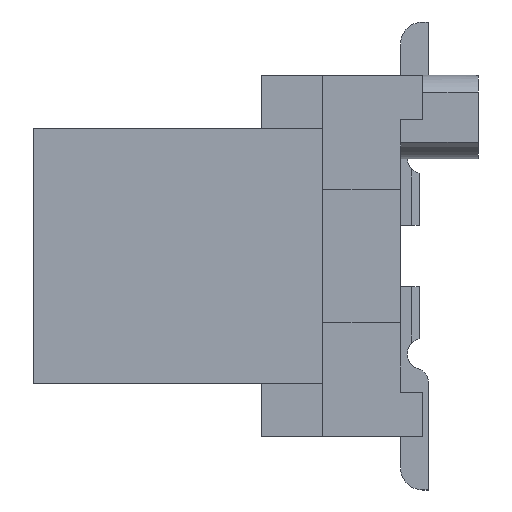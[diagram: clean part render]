
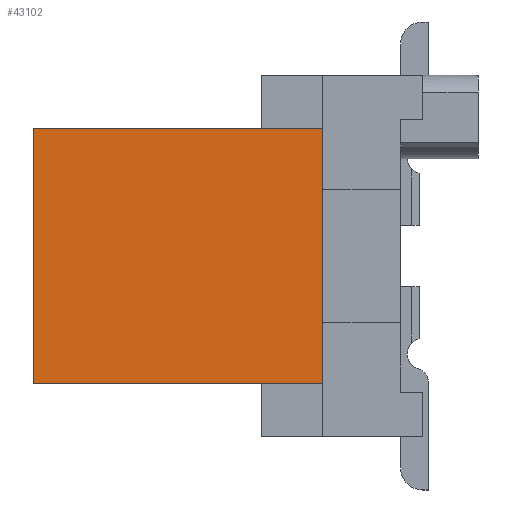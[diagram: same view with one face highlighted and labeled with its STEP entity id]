
A CAD part, left-side view. The second image highlights one B-rep face of the part: STEP entity #43102.
In plain terms, the highlighted planar face has unit normal (-1, 0, 0).
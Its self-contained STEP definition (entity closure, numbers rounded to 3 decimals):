
#2922 = DIRECTION ( 'NONE',  ( -1., 0., 0. ) ) ;
#4295 = VERTEX_POINT ( 'NONE', #21627 ) ;
#5418 = ORIENTED_EDGE ( 'NONE', *, *, #6953, .F. ) ;
#6225 = ORIENTED_EDGE ( 'NONE', *, *, #54041, .T. ) ;
#6953 = EDGE_CURVE ( 'NONE', #56778, #30834, #28924, .T. ) ;
#7497 = CARTESIAN_POINT ( 'NONE',  ( 1.944, -0.529, -2.775 ) ) ;
#9437 = VECTOR ( 'NONE', #49473, 1000. ) ;
#10657 = EDGE_CURVE ( 'NONE', #53269, #4295, #25422, .T. ) ;
#12766 = DIRECTION ( 'NONE',  ( 0., 0., 1. ) ) ;
#14448 = LINE ( 'NONE', #49749, #9437 ) ;
#15999 = CARTESIAN_POINT ( 'NONE',  ( 1.944, -1.079, -2.775 ) ) ;
#16114 = DIRECTION ( 'NONE',  ( 0., 0., 1. ) ) ;
#16687 = PLANE ( 'NONE',  #34619 ) ;
#17676 = VECTOR ( 'NONE', #20030, 1000. ) ;
#19606 = CARTESIAN_POINT ( 'NONE',  ( 1.944, -1.079, -2.775 ) ) ;
#20030 = DIRECTION ( 'NONE',  ( 0., 0., -1. ) ) ;
#21627 = CARTESIAN_POINT ( 'NONE',  ( 1.944, 1.521, -0.475 ) ) ;
#22575 = VECTOR ( 'NONE', #12766, 1000. ) ;
#24594 = CARTESIAN_POINT ( 'NONE',  ( 1.944, -1.079, -0.475 ) ) ;
#25422 = LINE ( 'NONE', #43497, #22575 ) ;
#25574 = VECTOR ( 'NONE', #31575, 1000. ) ;
#28924 = LINE ( 'NONE', #15999, #17676 ) ;
#29314 = EDGE_LOOP ( 'NONE', ( #36275, #38699, #5418, #6225 ) ) ;
#30834 = VERTEX_POINT ( 'NONE', #19606 ) ;
#31575 = DIRECTION ( 'NONE',  ( 0., 1., 0. ) ) ;
#33151 = EDGE_CURVE ( 'NONE', #30834, #53269, #14448, .T. ) ;
#33333 = FACE_OUTER_BOUND ( 'NONE', #29314, .T. ) ;
#33416 = CARTESIAN_POINT ( 'NONE',  ( 1.944, 1.521, -2.775 ) ) ;
#34619 = AXIS2_PLACEMENT_3D ( 'NONE', #7497, #2922, #16114 ) ;
#35896 = CARTESIAN_POINT ( 'NONE',  ( 1.944, -0.529, -0.475 ) ) ;
#36275 = ORIENTED_EDGE ( 'NONE', *, *, #10657, .F. ) ;
#38699 = ORIENTED_EDGE ( 'NONE', *, *, #33151, .F. ) ;
#43102 = ADVANCED_FACE ( 'NONE', ( #33333 ), #16687, .T. ) ;
#43497 = CARTESIAN_POINT ( 'NONE',  ( 1.944, 1.521, -2.775 ) ) ;
#44509 = LINE ( 'NONE', #35896, #25574 ) ;
#49473 = DIRECTION ( 'NONE',  ( 0., 1., 0. ) ) ;
#49749 = CARTESIAN_POINT ( 'NONE',  ( 1.944, -0.529, -2.775 ) ) ;
#53269 = VERTEX_POINT ( 'NONE', #33416 ) ;
#54041 = EDGE_CURVE ( 'NONE', #56778, #4295, #44509, .T. ) ;
#56778 = VERTEX_POINT ( 'NONE', #24594 ) ;
